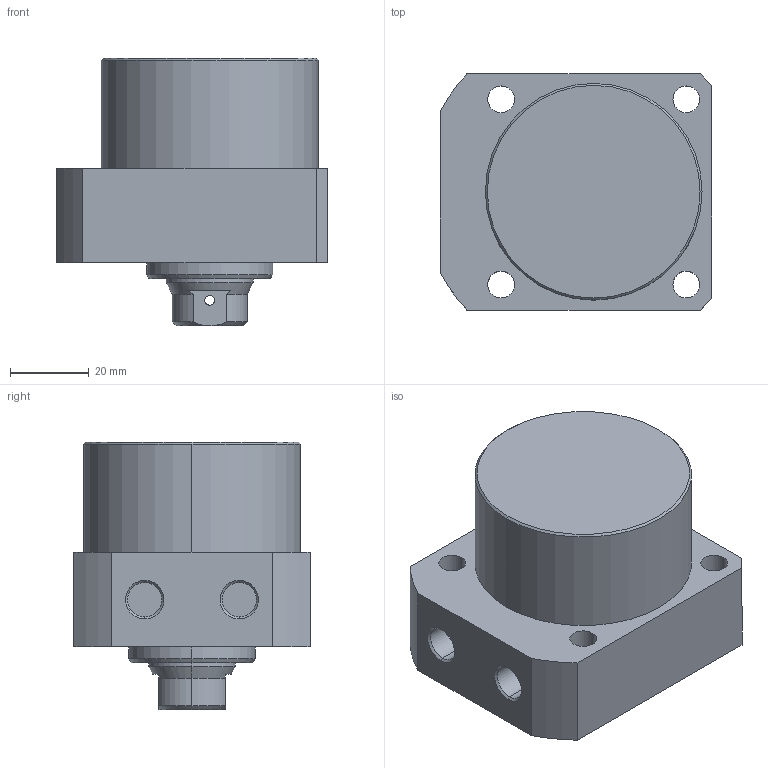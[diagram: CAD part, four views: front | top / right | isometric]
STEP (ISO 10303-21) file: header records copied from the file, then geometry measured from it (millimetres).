
FILE_DESCRIPTION (( 'STEP AP203' ), '1' );
FILE_NAME ('CLLR-055CB-015.STEP', '2019-12-19T07:44:26', ( '' ), ( '' ), 'SwSTEP 2.0', 'SolidWorks 2015', '' );
FILE_SCHEMA (( 'CONFIG_CONTROL_DESIGN' ));
Length unit declared in the file: millimetre
Products named in the file (1): CLLR-055CB-015
Bounding box: 69 x 60 x 68 mm (x, y, z)
Volume: 164120.3 mm3; surface area: 23064.6 mm2
Topology: 1 solids, 1 shells, 69 faces, 163 edges, 102 vertices
Faces by surface type: cylinder 33, plane 19, cone 17
Entity records: 2183 total; most frequent: CARTESIAN_POINT 453, DIRECTION 368, ORIENTED_EDGE 322, EDGE_CURVE 161, AXIS2_PLACEMENT_3D 149, VERTEX_POINT 102, EDGE_LOOP 89, CIRCLE 79
